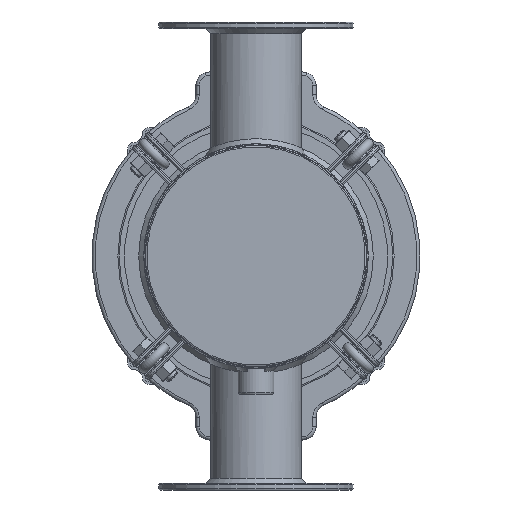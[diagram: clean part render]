
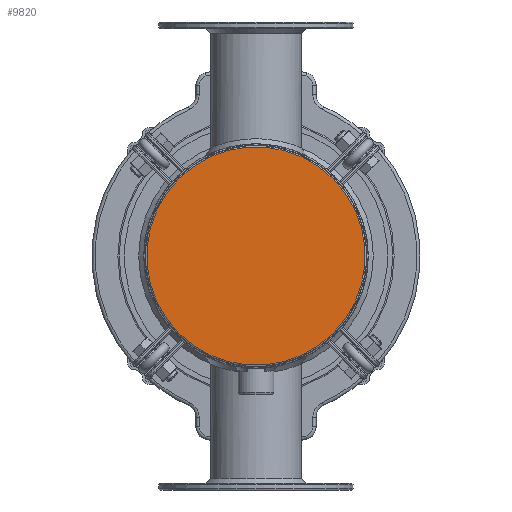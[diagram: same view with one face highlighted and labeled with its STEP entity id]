
A CAD part, front view. The second image highlights one B-rep face of the part: STEP entity #9820.
In plain terms, the highlighted planar face has unit normal (0, -1, 0).
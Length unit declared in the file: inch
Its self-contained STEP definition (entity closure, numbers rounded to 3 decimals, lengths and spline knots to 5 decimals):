
#955=CIRCLE('',#10567,4.2);
#2006=FACE_OUTER_BOUND('',#2692,.T.);
#2692=EDGE_LOOP('',(#7262));
#4711=VERTEX_POINT('',#17805);
#5656=EDGE_CURVE('',#4711,#4711,#955,.T.);
#7262=ORIENTED_EDGE('',*,*,#5656,.F.);
#9552=PLANE('',#10570);
#9820=ADVANCED_FACE('',(#2006),#9552,.F.);
#10567=AXIS2_PLACEMENT_3D('',#17806,#12253,#12254);
#10570=AXIS2_PLACEMENT_3D('',#17810,#12259,#12260);
#12253=DIRECTION('center_axis',(0.,1.,0.));
#12254=DIRECTION('ref_axis',(1.,0.,0.));
#12259=DIRECTION('center_axis',(0.,1.,0.));
#12260=DIRECTION('ref_axis',(0.,0.,1.));
#17805=CARTESIAN_POINT('',(-4.2,0.,0.));
#17806=CARTESIAN_POINT('Origin',(0.,0.,0.));
#17810=CARTESIAN_POINT('Origin',(0.,0.,0.));
